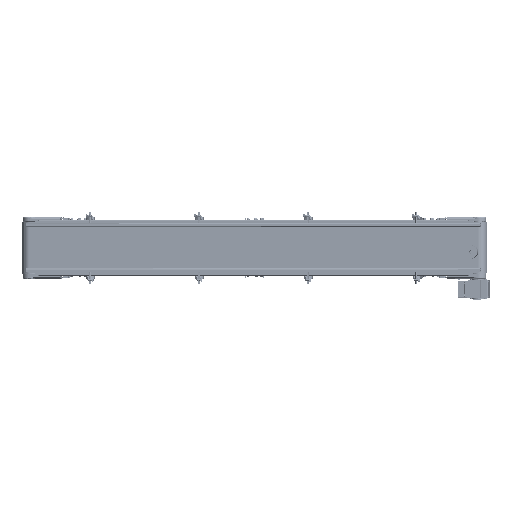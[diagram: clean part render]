
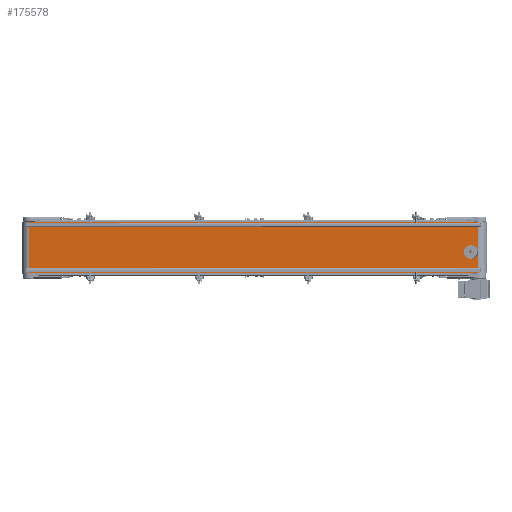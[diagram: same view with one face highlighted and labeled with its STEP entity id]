
A CAD part, top view. The second image highlights one B-rep face of the part: STEP entity #175578.
In plain terms, the highlighted planar face has unit normal (-0.097, 0, 0.995).
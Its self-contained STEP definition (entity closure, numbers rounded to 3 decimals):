
#9439=PLANE('',#196809);
#27882=LINE('',#302460,#43336);
#27883=LINE('',#302465,#43337);
#27885=LINE('',#302474,#43339);
#27889=LINE('',#302486,#43343);
#43336=VECTOR('',#242191,1.);
#43337=VECTOR('',#242198,1.);
#43339=VECTOR('',#242208,1.);
#43343=VECTOR('',#242224,1.);
#55086=FACE_OUTER_BOUND('',#65921,.T.);
#65921=EDGE_LOOP('',(#157210,#157211,#157212,#157213));
#88343=VERTEX_POINT('',#302457);
#88344=VERTEX_POINT('',#302459);
#88345=VERTEX_POINT('',#302463);
#88348=VERTEX_POINT('',#302472);
#111778=EDGE_CURVE('',#88344,#88343,#27882,.T.);
#111781=EDGE_CURVE('',#88343,#88345,#27883,.T.);
#111786=EDGE_CURVE('',#88348,#88345,#27885,.T.);
#111792=EDGE_CURVE('',#88348,#88344,#27889,.T.);
#157210=ORIENTED_EDGE('',*,*,#111781,.T.);
#157211=ORIENTED_EDGE('',*,*,#111786,.F.);
#157212=ORIENTED_EDGE('',*,*,#111792,.T.);
#157213=ORIENTED_EDGE('',*,*,#111778,.T.);
#175578=ADVANCED_FACE('',(#55086),#9439,.T.);
#196809=AXIS2_PLACEMENT_3D('',#302485,#242222,#242223);
#242191=DIRECTION('',(0.,1.,0.));
#242198=DIRECTION('',(-0.995,0.,-0.097));
#242208=DIRECTION('',(0.,1.,0.));
#242222=DIRECTION('center_axis',(-0.097,0.,0.995));
#242223=DIRECTION('ref_axis',(0.995,0.,0.097));
#242224=DIRECTION('',(0.995,0.,0.097));
#302457=CARTESIAN_POINT('',(2674.631,295.5,1131.812));
#302459=CARTESIAN_POINT('',(2674.631,-9.5,1131.812));
#302460=CARTESIAN_POINT('',(2674.631,-9.5,1131.812));
#302463=CARTESIAN_POINT('',(-4.789,295.5,871.868));
#302465=CARTESIAN_POINT('',(-4.789,295.5,871.868));
#302472=CARTESIAN_POINT('',(-4.789,-9.5,871.868));
#302474=CARTESIAN_POINT('',(-4.789,-9.5,871.868));
#302485=CARTESIAN_POINT('Origin',(1334.921,-9.5,1001.84));
#302486=CARTESIAN_POINT('',(-4.789,-9.5,871.868));
